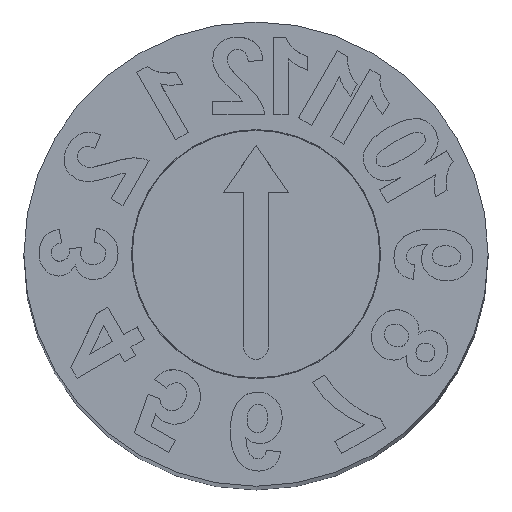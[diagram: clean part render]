
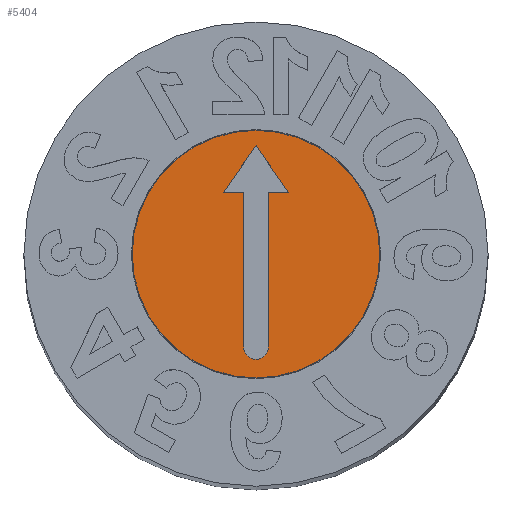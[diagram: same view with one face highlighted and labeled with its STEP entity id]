
A CAD part, top view. The second image highlights one B-rep face of the part: STEP entity #5404.
In plain terms, the highlighted planar face has unit normal (0, 0, 1).
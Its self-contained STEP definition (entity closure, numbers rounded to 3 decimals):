
#37=FACE_BOUND('',#1325,.T.);
#708=PLANE('',#5533);
#1007=FACE_OUTER_BOUND('',#1324,.T.);
#1324=EDGE_LOOP('',(#5089));
#1325=EDGE_LOOP('',(#5090,#5091,#5092,#5093,#5094,#5095,#5096));
#1718=LINE('',#11022,#2127);
#1722=LINE('',#11030,#2131);
#1725=LINE('',#11036,#2134);
#1728=LINE('',#11042,#2137);
#1731=LINE('',#11048,#2140);
#1734=LINE('',#11054,#2143);
#2127=VECTOR('',#6126,10.);
#2131=VECTOR('',#6132,10.);
#2134=VECTOR('',#6137,10.);
#2137=VECTOR('',#6142,10.);
#2140=VECTOR('',#6147,10.);
#2143=VECTOR('',#6152,10.);
#2155=CIRCLE('',#5527,0.08);
#2157=CIRCLE('',#5531,0.8);
#2679=VERTEX_POINT('',#11020);
#2680=VERTEX_POINT('',#11021);
#2683=VERTEX_POINT('',#11029);
#2685=VERTEX_POINT('',#11035);
#2687=VERTEX_POINT('',#11041);
#2689=VERTEX_POINT('',#11047);
#2691=VERTEX_POINT('',#11053);
#2693=VERTEX_POINT('',#11063);
#3475=EDGE_CURVE('',#2679,#2680,#1718,.T.);
#3479=EDGE_CURVE('',#2683,#2679,#1722,.T.);
#3482=EDGE_CURVE('',#2685,#2683,#1725,.T.);
#3485=EDGE_CURVE('',#2687,#2685,#1728,.T.);
#3488=EDGE_CURVE('',#2689,#2687,#1731,.T.);
#3491=EDGE_CURVE('',#2691,#2689,#1734,.T.);
#3494=EDGE_CURVE('',#2680,#2691,#2155,.T.);
#3496=EDGE_CURVE('',#2693,#2693,#2157,.T.);
#5089=ORIENTED_EDGE('',*,*,#3496,.T.);
#5090=ORIENTED_EDGE('',*,*,#3475,.T.);
#5091=ORIENTED_EDGE('',*,*,#3494,.T.);
#5092=ORIENTED_EDGE('',*,*,#3491,.T.);
#5093=ORIENTED_EDGE('',*,*,#3488,.T.);
#5094=ORIENTED_EDGE('',*,*,#3485,.T.);
#5095=ORIENTED_EDGE('',*,*,#3482,.T.);
#5096=ORIENTED_EDGE('',*,*,#3479,.T.);
#5404=ADVANCED_FACE('',(#1007,#37),#708,.T.);
#5527=AXIS2_PLACEMENT_3D('',#11059,#6157,#6158);
#5531=AXIS2_PLACEMENT_3D('',#11064,#6165,#6166);
#5533=AXIS2_PLACEMENT_3D('',#11068,#6170,#6171);
#6126=DIRECTION('',(0.,-1.,0.));
#6132=DIRECTION('',(-1.,0.,0.));
#6137=DIRECTION('',(0.574,-0.819,0.));
#6142=DIRECTION('',(0.574,0.819,0.));
#6147=DIRECTION('',(-1.,0.,0.));
#6152=DIRECTION('',(0.,1.,0.));
#6157=DIRECTION('center_axis',(0.,0.,-1.));
#6158=DIRECTION('ref_axis',(-1.,0.,0.));
#6165=DIRECTION('center_axis',(0.,0.,1.));
#6166=DIRECTION('ref_axis',(-1.,0.,0.));
#6170=DIRECTION('center_axis',(0.,0.,1.));
#6171=DIRECTION('ref_axis',(-1.,0.,0.));
#11020=CARTESIAN_POINT('',(0.08,0.4,14.));
#11021=CARTESIAN_POINT('',(0.08,-0.6,14.));
#11022=CARTESIAN_POINT('',(0.08,0.2,14.));
#11029=CARTESIAN_POINT('',(0.21,0.4,14.));
#11030=CARTESIAN_POINT('',(0.105,0.4,14.));
#11035=CARTESIAN_POINT('',(0.,0.7,14.));
#11036=CARTESIAN_POINT('',(0.164,0.465,14.));
#11041=CARTESIAN_POINT('',(-0.21,0.4,14.));
#11042=CARTESIAN_POINT('',(-0.269,0.315,14.));
#11047=CARTESIAN_POINT('',(-0.08,0.4,14.));
#11048=CARTESIAN_POINT('',(-0.04,0.4,14.));
#11053=CARTESIAN_POINT('',(-0.08,-0.6,14.));
#11054=CARTESIAN_POINT('',(-0.08,-0.3,14.));
#11059=CARTESIAN_POINT('Origin',(0.,-0.6,14.));
#11063=CARTESIAN_POINT('',(0.8,0.,14.));
#11064=CARTESIAN_POINT('Origin',(0.,0.,14.));
#11068=CARTESIAN_POINT('Origin',(0.,0.,14.));
